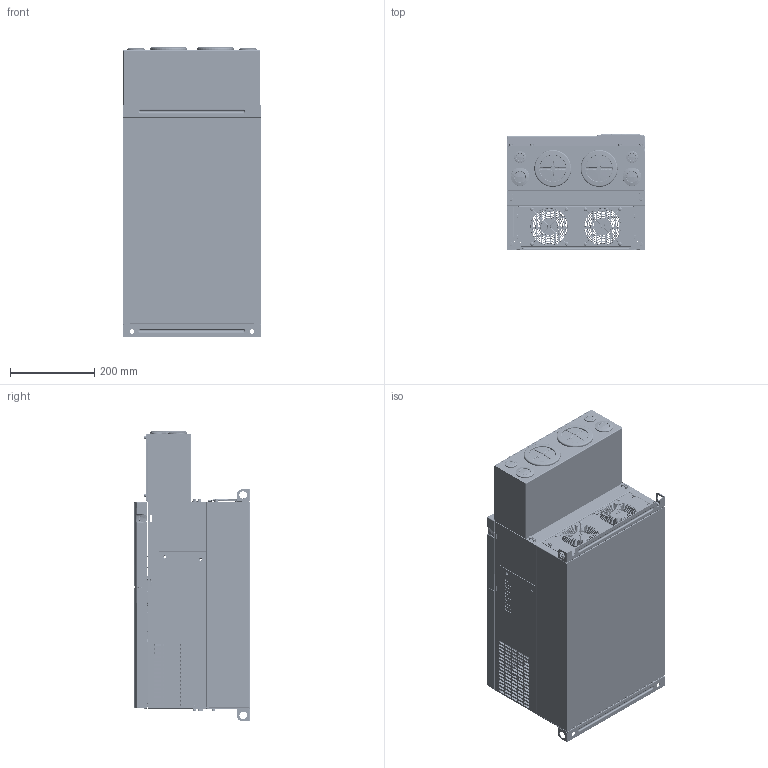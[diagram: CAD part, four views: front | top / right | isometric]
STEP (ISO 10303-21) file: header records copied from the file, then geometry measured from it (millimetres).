
FILE_DESCRIPTION((''),'2;1');
FILE_NAME('DELTA_IA-MDS_VFD-C-FRAME-D2_D-3_ASM','2021-02-21T17:27:41',('KEN.KL.LIU'),(''),'CREO PARAMETRIC BY PTC INC, 2018500','CREO PARAMETRIC BY PTC INC, 2018500','');
FILE_SCHEMA(('AUTOMOTIVE_DESIGN { 1 0 10303 214 1 1 1 1 }'));
Products named in the file (108): PRT0008_1_1_1; PRT0009_1_1_1; PRT0010_1_1_1; PRT0039_1_1_1; ASM0004_ASM_1_ASM_1_ASM_1_ASM; PRT0040_1_1_1; PRT0041_1_1_1; PRT0042_1_1_1; PRT0043_1_1_1; PRT0044_1_1_1; PRT0045_1_1_1; PRT0046_1_1_1; PRT0047_1_1_1; ASM0006_ASM_1_ASM_1_ASM_1_ASM; ASM0005_ASM_1_ASM_1_ASM_1_ASM; PRT0048_1_1_1; ASM0007_ASM_1_ASM_1_ASM_1_ASM; PRT0049_1_1_1; PRT0050_1_1_1; PRT0051_1_1_1; PRT0052_1_1_1; PRT0053_1_1_1; PRT0054_1_1_1; PRT0055_1_1_1; PRT0056_1_1_1; PRT0057_1_1_1; PRT0058_1_1_1; PRT0059_1_1_1; PRT0060_1_1_1; ASM0009_ASM_1_ASM_1_ASM_1_ASM; PRT0061_1_1_1; ASM0008_ASM_1_ASM_1_ASM_1_ASM; PRT0062_1_1_1; PRT0063_1_1_1; PRT0064_1_1_1; ASM0003_ASM_1_ASM_1_ASM_1_ASM; PRT0065_1_1_1; PRT0066_1_1_1; ASM0012_ASM_1_ASM_1_ASM_1_ASM; PRT0067_1_1_1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
Assembly tree (167 placements, depth 13):
  DELTA_IA-MDS_VFD-C-FRAME-D2_D-3_ASM
    DELTA_IA-MDS_VFD-C-FRAME-D2_D_1_ASM
      VFD-C-D2-PD-3D01_ASM_1_ASM_1_ASM
        ASM0002_ASM_1_ASM_1_ASM_1_ASM
          PRT0008_1_1_1
          ASM0003_ASM_1_ASM_1_ASM_1_ASM
            ASM0004_ASM_1_ASM_1_ASM_1_ASM
              PRT0009_1_1_1
              PRT0010_1_1_1
              PRT0039_1_1_1
            ASM0005_ASM_1_ASM_1_ASM_1_ASM
              ASM0006_ASM_1_ASM_1_ASM_1_ASM
                PRT0040_1_1_1
                PRT0041_1_1_1
                PRT0042_1_1_1
                PRT0043_1_1_1
                PRT0044_1_1_1
                PRT0045_1_1_1
                PRT0046_1_1_1
                PRT0047_1_1_1
            ASM0007_ASM_1_ASM_1_ASM_1_ASM
              PRT0048_1_1_1
            PRT0049_1_1_1
            ASM0008_ASM_1_ASM_1_ASM_1_ASM
              PRT0050_1_1_1
              PRT0051_1_1_1  x2
              ASM0009_ASM_1_ASM_1_ASM_1_ASM  x2
                PRT0052_1_1_1
                PRT0053_1_1_1
                PRT0054_1_1_1
                PRT0055_1_1_1
                PRT0056_1_1_1
                PRT0057_1_1_1
                PRT0058_1_1_1
                PRT0059_1_1_1
                PRT0060_1_1_1
              PRT0061_1_1_1  x8
            PRT0062_1_1_1
            PRT0063_1_1_1
            PRT0064_1_1_1  x24
          ASM0010_ASM_1_ASM_1_ASM_1_ASM
            ASM0011_ASM_1_ASM_1_ASM_1_ASM  x10
              ASM0012_ASM_1_ASM_1_ASM_1_ASM
                PRT0065_1_1_1
                PRT0066_1_1_1
              PRT0067_1_1_1
              PRT0068_1_1_1
          ASM0013_ASM_1_ASM_1_ASM_1_ASM
            PRT0069_1_1_1
          PRT0070_1_1_1  x10
          PRT0071_1_1_1
          ASM0014_ASM_1_ASM_1_ASM_1_ASM
            ASM0015_ASM_1_ASM_1_ASM_1_ASM
              PRT0072_1_1_1
            ASM0016_ASM_1_ASM_1_ASM_1_ASM
              PRT0073_1_1_1
            PRT0074_1_1_1  x4
            PRT0075_1_2_1_1  x2
            PRT0076_1_1_1  x2
            PRT0077_1_1_1  x2
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Bounding box: 330.25 x 275.4 x 688.32 mm (x, y, z)
Volume: 2768665 mm3; surface area: 3018824.4 mm2
Topology: 153 solids, 257 shells, 15714 faces, 42909 edges, 27886 vertices
Faces by surface type: plane 8427, cylinder 4344, bspline 1287, cone 562, torus 510, extrusion 384, sphere 200
Entity records: 465368 total; most frequent: CARTESIAN_POINT 128467, ORIENTED_EDGE 50552, DIRECTION 44875, EDGE_CURVE 25285, VECTOR 17119, LINE 16735, VERTEX_POINT 16323, PRESENTATION_STYLE_ASSIGNMENT 14875
